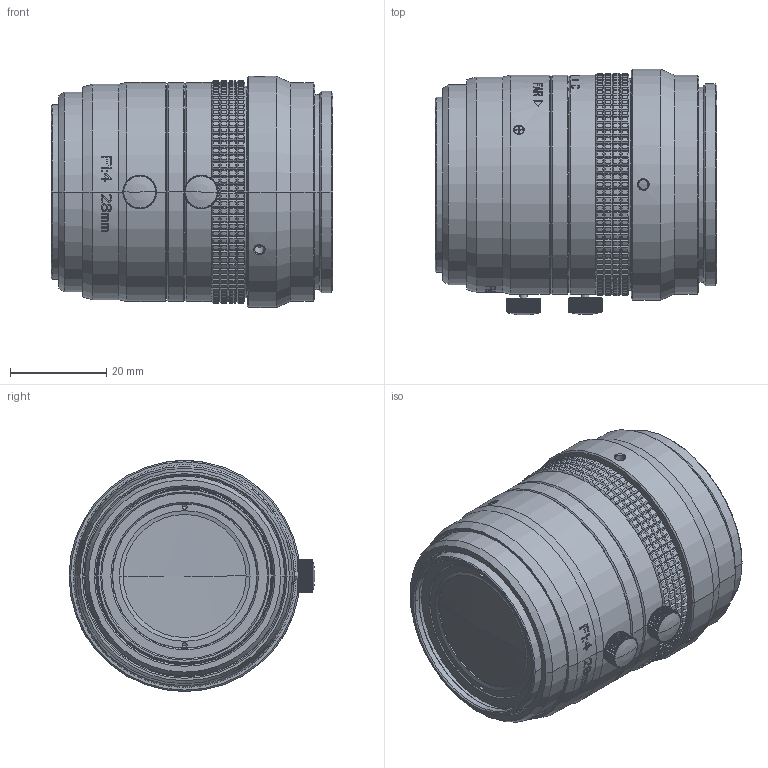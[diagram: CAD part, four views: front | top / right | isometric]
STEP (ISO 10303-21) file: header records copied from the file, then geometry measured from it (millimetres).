
FILE_DESCRIPTION((''),'2;1');
FILE_NAME('LS2801AVM42_ASM','2021-01-13T',('Administrator'),(''),'PRO/ENGINEER BY PARAMETRIC TECHNOLOGY CORPORATION, 2010370','PRO/ENGINEER BY PARAMETRIC TECHNOLOGY CORPORATION, 2010370','');
FILE_SCHEMA(('CONFIG_CONTROL_DESIGN'));
Length unit declared in the file: millimetre
Products named in the file (23): MSBR-42; MSBR-41; MSBR-40; MSBR-39; MSBR-38; MSBR-37; MSBR-36; MSBR-35; MSBR-34; MSBR-33; MSBR-32; MSBR-25; MSBR-23; MSBR-22; MSBR-21; MSBR-20; MSBR-19; MSBR-2; MSBR-1; 200_ASM_ASM_ASM; LS2801A_ASM; AT4214; LS2801AVM42_ASM
Assembly tree (22 placements, depth 4):
  LS2801AVM42_ASM
    LS2801A_ASM
      200_ASM_ASM_ASM
        MSBR-42
        MSBR-41
        MSBR-40
        MSBR-39
        MSBR-38
        MSBR-37
        MSBR-36
        MSBR-35
        MSBR-34
        MSBR-33
        MSBR-32
        MSBR-25
        MSBR-23
        MSBR-22
        MSBR-21
        MSBR-20
        MSBR-19
        MSBR-2
        MSBR-1
    AT4214
Bounding box: 58.65 x 51.15 x 48.1 mm (x, y, z)
Volume: 55091.4 mm3; surface area: 48901.7 mm2
Topology: 20 solids, 20 shells, 3595 faces, 9066 edges, 5589 vertices
Faces by surface type: plane 1519, cone 1032, cylinder 779, bspline 253, sphere 12
Entity records: 120062 total; most frequent: CARTESIAN_POINT 37800, ORIENTED_EDGE 18068, DIRECTION 15925, EDGE_CURVE 9034, AXIS2_PLACEMENT_3D 6419, VERTEX_POINT 5589, EDGE_LOOP 3755, FACE_OUTER_BOUND 3595
